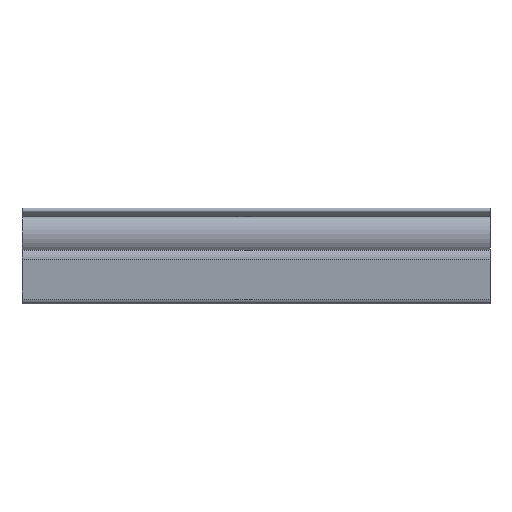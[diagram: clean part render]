
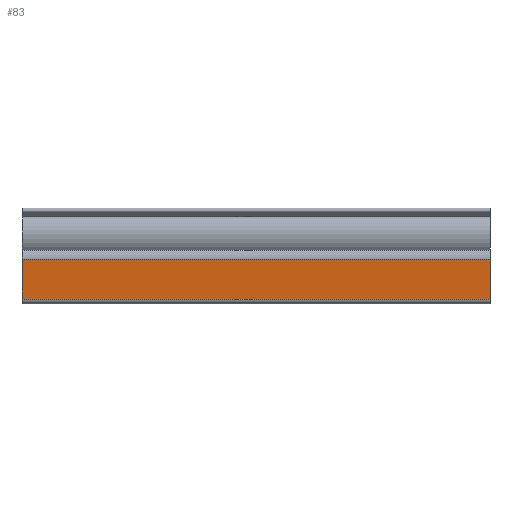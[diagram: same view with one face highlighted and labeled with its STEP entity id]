
A CAD part, top view. The second image highlights one B-rep face of the part: STEP entity #83.
In plain terms, the highlighted planar face has unit normal (0, -0.09, 0.996).
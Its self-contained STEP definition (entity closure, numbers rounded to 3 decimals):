
#83 = ADVANCED_FACE( '', ( #147 ), #148, .F. );
#147 = FACE_OUTER_BOUND( '', #259, .T. );
#148 = PLANE( '', #260 );
#259 = EDGE_LOOP( '', ( #411, #412, #413, #414 ) );
#260 = AXIS2_PLACEMENT_3D( '', #415, #416, #417 );
#411 = ORIENTED_EDGE( '', *, *, #863, .T. );
#412 = ORIENTED_EDGE( '', *, *, #864, .F. );
#413 = ORIENTED_EDGE( '', *, *, #865, .F. );
#414 = ORIENTED_EDGE( '', *, *, #861, .T. );
#415 = CARTESIAN_POINT( '', ( 100., 9.544, 4.763 ) );
#416 = DIRECTION( '', ( 0., 0.09, -0.996 ) );
#417 = DIRECTION( '', ( 0., 0.996, 0.09 ) );
#861 = EDGE_CURVE( '', #1037, #1035, #1038, .T. );
#863 = EDGE_CURVE( '', #1035, #1040, #1041, .T. );
#864 = EDGE_CURVE( '', #1042, #1040, #1043, .T. );
#865 = EDGE_CURVE( '', #1037, #1042, #1044, .T. );
#1035 = VERTEX_POINT( '', #1310 );
#1037 = VERTEX_POINT( '', #1312 );
#1038 = LINE( '', #1313, #1314 );
#1040 = VERTEX_POINT( '', #1316 );
#1041 = LINE( '', #1317, #1318 );
#1042 = VERTEX_POINT( '', #1319 );
#1043 = LINE( '', #1320, #1321 );
#1044 = LINE( '', #1322, #1323 );
#1310 = CARTESIAN_POINT( '', ( 0., 9.544, 4.763 ) );
#1312 = CARTESIAN_POINT( '', ( 100., 9.544, 4.763 ) );
#1313 = CARTESIAN_POINT( '', ( 100., 9.544, 4.763 ) );
#1314 = VECTOR( '', #1671, 1000. );
#1316 = CARTESIAN_POINT( '', ( 0., 1.024, 3.995 ) );
#1317 = CARTESIAN_POINT( '', ( 0., 9.544, 4.763 ) );
#1318 = VECTOR( '', #1675, 1000. );
#1319 = CARTESIAN_POINT( '', ( 100., 1.024, 3.995 ) );
#1320 = CARTESIAN_POINT( '', ( 100., 1.024, 3.995 ) );
#1321 = VECTOR( '', #1676, 1000. );
#1322 = CARTESIAN_POINT( '', ( 100., 9.544, 4.763 ) );
#1323 = VECTOR( '', #1677, 1000. );
#1671 = DIRECTION( '', ( -1., 0., 0. ) );
#1675 = DIRECTION( '', ( 0., -0.996, -0.09 ) );
#1676 = DIRECTION( '', ( -1., 0., 0. ) );
#1677 = DIRECTION( '', ( 0., -0.996, -0.09 ) );
